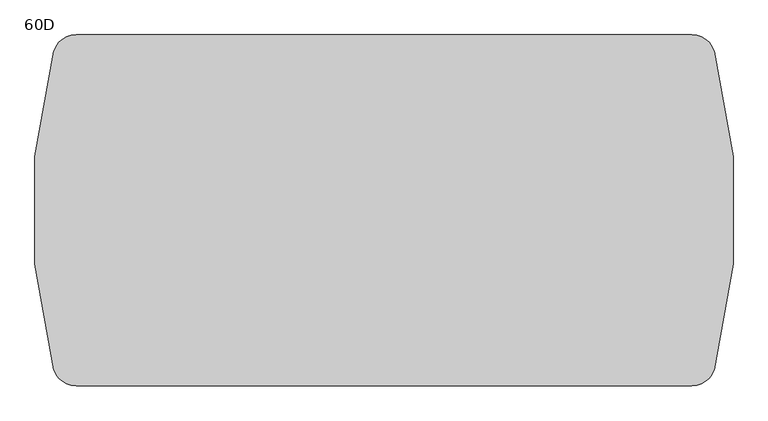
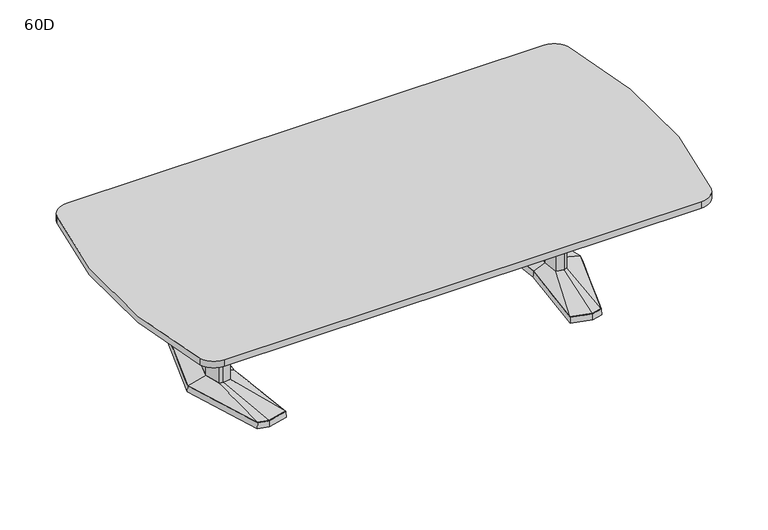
"""IFC4 building model written with IfcOpenShell, lengths in millimetres: furniture geometry, Coalesse_AM_Table_Conference_ETable2_SoftRadiused_10ft_AluminiumBase : 60D."""

import ifcopenshell
import ifcopenshell.guid

model = None  # the IFC model being written
_history = None  # IfcOwnerHistory: only IFC2X3 demands one
_inside = {}  # id of a spatial element -> (the spatial element, [elements in it])
_under = {}  # id of a project, library or spatial element -> (it, [spatial elements below it])
_declared = {}  # id of a project -> (the project, [libraries it declares])
_typed = {}  # id of a type object -> (the type object, [elements of that type])
_made_of = {}  # id of a material, layer set ... -> (it, [elements and type objects made of it])


def new_model(schema):
    """Start an empty IFC model of exactly this schema.

    Asked for "IFC4X3", IfcOpenShell would pick the latest addendum, in which some entities
    have other attributes; the version numbers below select the first issue.
    IFC2X3 requires an IfcOwnerHistory on every rooted entity: one is made here for all.
    """
    global model, _history
    if schema == "IFC4X3":
        model = ifcopenshell.file(schema_version=(4, 3, 0, 0))
    else:
        model = ifcopenshell.file(schema=schema)
    _inside.clear()
    _under.clear()
    _declared.clear()
    _typed.clear()
    _made_of.clear()
    _history = None
    if model.schema == "IFC2X3":
        org = make("IfcOrganization", Name="unknown")
        user = make(
            "IfcPersonAndOrganization",
            ThePerson=make("IfcPerson", FamilyName="unknown"),
            TheOrganization=org,
        )
        app = make(
            "IfcApplication",
            ApplicationDeveloper=org,
            Version="unknown",
            ApplicationFullName="unknown",
            ApplicationIdentifier="unknown",
        )
        _history = make(
            "IfcOwnerHistory",
            OwningUser=user,
            OwningApplication=app,
            ChangeAction="ADDED",
            CreationDate=0,
        )
    return model


def make(cls, **values):
    """One entity of the class cls with the attributes given. An attribute that is None is left unset."""
    return model.create_entity(
        cls, **{name: value for name, value in values.items() if value is not None}
    )


def rooted(cls, **values):
    """An entity with a GlobalId (a new one), such as an element, a storey or a relation."""
    return make(cls, GlobalId=ifcopenshell.guid.new(), OwnerHistory=_history, **values)


def si_unit(unit_type, name, prefix=None):
    """IfcSIUnit, for example si_unit("LENGTHUNIT", "METRE", prefix="MILLI")."""
    return make("IfcSIUnit", UnitType=unit_type, Prefix=prefix, Name=name)


def assignment(units):
    """IfcUnitAssignment: the units of a project."""
    return None if units is None else make("IfcUnitAssignment", Units=units)


def point(xyz):
    """IfcCartesianPoint."""
    return None if xyz is None else make("IfcCartesianPoint", Coordinates=xyz)


def direction(xyz):
    """IfcDirection."""
    return None if xyz is None else make("IfcDirection", DirectionRatios=xyz)


def frame(location, z_axis=None, x_axis=None):
    """IfcAxis2Placement3D, a coordinate frame: its origin and axes. An axis left out is left unset."""
    return make(
        "IfcAxis2Placement3D",
        Location=point(location),
        Axis=direction(z_axis),
        RefDirection=direction(x_axis),
    )


def origin():
    """The frame at (0, 0, 0) with its axes left unset."""
    return frame((0.0, 0.0, 0.0))


def place(relative_to, where):
    """IfcLocalPlacement: puts the frame where relative to a parent placement (None: the world)."""
    return make(
        "IfcLocalPlacement", PlacementRelTo=relative_to, RelativePlacement=where
    )


def context(
    kind, dimensions, precision=None, world=None, true_north=None, identifier=None
):
    """IfcGeometricRepresentationContext, for example the 3D "Model" context."""
    return make(
        "IfcGeometricRepresentationContext",
        ContextIdentifier=identifier,
        ContextType=kind,
        CoordinateSpaceDimension=dimensions,
        Precision=precision,
        WorldCoordinateSystem=world,
        TrueNorth=true_north,
    )


def project(units=None, contexts=None):
    """IfcProject with its units and contexts."""
    return rooted(
        "IfcProject",
        Name="project",
        RepresentationContexts=contexts,
        UnitsInContext=assignment(units),
    )


def spatial(cls, under=None, at=None, **own):
    """A site, building, storey or space (cls), placed at a placement, below another one or the project."""
    s = rooted(cls, ObjectPlacement=at, **own)
    if under is not None:
        _under.setdefault(under.id(), (under, []))[1].append(s)
    return s


def polyline(points):
    """IfcPolyline through the points."""
    return make("IfcPolyline", Points=[point(p) for p in points])


def circle_curve(where, radius):
    """IfcCircle in the frame where."""
    return make("IfcCircle", Position=where, Radius=radius)


def outline(outer, holes=None, kind="AREA"):
    """IfcArbitraryClosedProfileDef: a profile drawn as a closed curve; with holes, ...WithVoids."""
    if holes is None:
        return make("IfcArbitraryClosedProfileDef", ProfileType=kind, OuterCurve=outer)
    return make(
        "IfcArbitraryProfileDefWithVoids",
        ProfileType=kind,
        OuterCurve=outer,
        InnerCurves=holes,
    )


def extrude(swept, where, along, depth):
    """IfcExtrudedAreaSolid: the profile swept, set in the frame where, extruded along a direction by depth."""
    return make(
        "IfcExtrudedAreaSolid",
        SweptArea=swept,
        Position=where,
        ExtrudedDirection=direction(along),
        Depth=depth,
    )


def faces_of(points, faces, orient=None, outer=None):
    """IfcFace entities. A face is a list of loops; a loop is a list of indices into points, from 0.

    orient and outer hold one flag for each loop. By default every Orientation is true, the
    first loop of a face is its IfcFaceOuterBound and the others are IfcFaceBound.
    """
    made = []
    for i, loops in enumerate(faces):
        bounds = []
        for j, loop in enumerate(loops):
            is_outer = j == 0 if outer is None else outer[i][j]
            bounds.append(
                make(
                    "IfcFaceOuterBound" if is_outer else "IfcFaceBound",
                    Bound=make("IfcPolyLoop", Polygon=[points[k] for k in loop]),
                    Orientation=True if orient is None else orient[i][j],
                )
            )
        made.append(make("IfcFace", Bounds=bounds))
    return made


def faceted_brep(points, faces, orient=None, outer=None, voids=None):
    """IfcFacetedBrep: a solid bounded by flat faces; with voids (closed shells), ...WithVoids."""
    shared = [point(p) for p in points]
    hull = make("IfcClosedShell", CfsFaces=faces_of(shared, faces, orient, outer))
    if voids is None:
        return make("IfcFacetedBrep", Outer=hull)
    return make(
        "IfcFacetedBrepWithVoids",
        Outer=hull,
        Voids=[
            make(cls, CfsFaces=faces_of(shared, fs, o, b)) for cls, fs, o, b in voids
        ],
    )


def shape(context_of_items, identifier, shape_type, items):
    """IfcShapeRepresentation: the items that make up one representation, for example the "Body"."""
    return make(
        "IfcShapeRepresentation",
        ContextOfItems=context_of_items,
        RepresentationIdentifier=identifier,
        RepresentationType=shape_type,
        Items=items,
    )


def source(mapping_origin, context_of_items, identifier, shape_type, items):
    """IfcRepresentationMap: a shape defined once, which mapped items show again and again."""
    return make(
        "IfcRepresentationMap",
        MappingOrigin=mapping_origin,
        MappedRepresentation=shape(context_of_items, identifier, shape_type, items),
    )


def transform(
    local_origin,
    x_axis=None,
    y_axis=None,
    z_axis=None,
    scale=None,
    scale2=None,
    scale3=None,
    uniform=True,
):
    """IfcCartesianTransformationOperator3D, or its non-uniform kind. x_axis, y_axis, z_axis: its Axis1, 2, 3."""
    if uniform:
        return make(
            "IfcCartesianTransformationOperator3D",
            Axis1=direction(x_axis),
            Axis2=direction(y_axis),
            LocalOrigin=point(local_origin),
            Scale=scale,
            Axis3=direction(z_axis),
        )
    return make(
        "IfcCartesianTransformationOperator3DnonUniform",
        Axis1=direction(x_axis),
        Axis2=direction(y_axis),
        LocalOrigin=point(local_origin),
        Scale=scale,
        Axis3=direction(z_axis),
        Scale2=scale2,
        Scale3=scale3,
    )


def mapped(mapping_source, mapping_target):
    """IfcMappedItem: shows the shape of a source again, moved by a transform."""
    return make(
        "IfcMappedItem", MappingSource=mapping_source, MappingTarget=mapping_target
    )


def made_of(thing, what):
    """Note that an element or type object is made of a material, layer set ...; save() writes the relation."""
    if what is not None:
        _made_of.setdefault(what.id(), (what, []))[1].append(thing)
    return thing


def element(
    cls,
    number,
    at=None,
    inside=None,
    cuts=None,
    type_object=None,
    material=None,
    context=None,
    identifier="Body",
    shape_type=None,
    held_by="IfcProductDefinitionShape",
    body=None,
    shapes=None,
    **own,
):
    """One element of the class cls, such as IfcWall. Its Tag is "e" and its number.

    at: its placement. inside: the storey or other place that contains it. cuts: it is an
    opening in that element (IfcRelVoidsElement). A single representation is given by context,
    identifier, shape_type and body (its items); several are given by shapes. held_by: the class
    of the entity that holds the representations. save() writes the other relations.
    """
    e = rooted(cls, Tag="e%d" % number, ObjectPlacement=at, **own)
    if body is not None:
        shapes = [shape(context, identifier, shape_type, body)]
    if shapes is not None:
        e.Representation = make(held_by, Representations=shapes)
    if inside is not None:
        _inside.setdefault(inside.id(), (inside, []))[1].append(e)
    if cuts is not None:
        rooted(
            "IfcRelVoidsElement", RelatingBuildingElement=cuts, RelatedOpeningElement=e
        )
    if type_object is not None:
        _typed.setdefault(type_object.id(), (type_object, []))[1].append(e)
    return made_of(e, material)


def aggregate(whole, parts):
    """IfcRelAggregates: a whole, such as a stair, and the parts it consists of."""
    return rooted("IfcRelAggregates", RelatingObject=whole, RelatedObjects=parts)


def save(model, path):
    """Write the relations noted so far, then the file.

    IfcRelAggregates (storeys below a building ...), IfcRelContainedInSpatialStructure (elements
    in a storey), IfcRelDefinesByType, IfcRelAssociatesMaterial and IfcRelDeclares: one each for
    every whole, place, type object, material and project.
    """
    for whole, parts in _under.values():
        aggregate(whole, parts)
    for where, things in _inside.values():
        rooted(
            "IfcRelContainedInSpatialStructure",
            RelatedElements=things,
            RelatingStructure=where,
        )
    for kind, things in _typed.values():
        rooted("IfcRelDefinesByType", RelatedObjects=things, RelatingType=kind)
    for what, things in _made_of.values():
        rooted("IfcRelAssociatesMaterial", RelatedObjects=things, RelatingMaterial=what)
    for by, libraries in _declared.values():
        rooted("IfcRelDeclares", RelatingContext=by, RelatedDefinitions=libraries)
    model.write(path)


def plane_surface(at):
    """IfcPlane: the flat surface through the origin of the frame at, square to its z axis."""
    return make("IfcPlane", Position=at)


def cylinder_surface(at, radius):
    """IfcCylindricalSurface: all points at the distance radius from the z axis of the frame at."""
    return make("IfcCylindricalSurface", Position=at, Radius=radius)


def spline_surface(u_degree, v_degree, points, u_multiplicities, v_multiplicities, u_knots, v_knots, weights=None):
    """IfcBSplineSurfaceWithKnots; with weights, IfcRationalBSplineSurfaceWithKnots. points: one row for each step in u."""
    own = dict(
        UDegree=u_degree,
        VDegree=v_degree,
        ControlPointsList=[[point(p) for p in row] for row in points],
        SurfaceForm="UNSPECIFIED",
        UClosed=False,
        VClosed=False,
        SelfIntersect=False,
        UMultiplicities=u_multiplicities,
        VMultiplicities=v_multiplicities,
        UKnots=u_knots,
        VKnots=v_knots,
        KnotSpec="UNSPECIFIED",
    )
    if weights is None:
        return make("IfcBSplineSurfaceWithKnots", **own)
    return make("IfcRationalBSplineSurfaceWithKnots", WeightsData=weights, **own)


def advanced_brep(points, edges, surfaces, faces):
    """IfcAdvancedBrep: a solid bounded by faces that lie on surfaces and meet in shared edges.

    An edge is (start, end): straight between two places in points (the first is 0);
    or (start, end, curve); or (start, end, curve, False) where it runs against its curve.
    A face is (place in surfaces, loops), or (place, loops, False) where it looks against
    its surface's normal. A loop lists edges by number (the first is 1), with a minus sign
    where the edge is run from its end to its start. The first loop is the outer one.
    """
    corners = [point(p) for p in points]
    vertices = [make("IfcVertexPoint", VertexGeometry=c) for c in corners]
    made = []
    for start, end, *more in edges:
        made.append(
            make(
                "IfcEdgeCurve",
                EdgeStart=vertices[start],
                EdgeEnd=vertices[end],
                EdgeGeometry=more[0] if more else make("IfcPolyline", Points=[corners[start], corners[end]]),
                SameSense=more[1] if len(more) > 1 else True,
            )
        )
    hull = []
    for where, loops, *sense in faces:
        bounds = []
        for j, loop in enumerate(loops):
            ring = [make("IfcOrientedEdge", EdgeElement=made[abs(k) - 1], Orientation=k > 0) for k in loop]
            bounds.append(
                make(
                    "IfcFaceOuterBound" if j == 0 else "IfcFaceBound",
                    Bound=make("IfcEdgeLoop", EdgeList=ring),
                    Orientation=True,
                )
            )
        hull.append(make("IfcAdvancedFace", Bounds=bounds, FaceSurface=surfaces[where], SameSense=sense[0] if sense else True))
    return make("IfcAdvancedBrep", Outer=make("IfcClosedShell", CfsFaces=hull))


def furniture_60d_a874cf7c(model_context):
    return source(origin(), model_context, "Body", "SolidModel", [
        faceted_brep([(905.8306835, 455.5848221, 38.1), (796.2531277, 426.2263816, 38.1), (837.4163717, 0.0, 38.1), (796.2531277, -426.2263816, 38.1), (905.8306835, -455.5848221, 38.1), (961.9570396, -440.5478297, 38.1), (1099.2684269, 0.0, 38.1), (961.9570396, 440.5478297, 38.1), (905.8306754, 457.2283104, 3.175), (963.2124472, 441.8549756, 3.175), (1100.93125, 0.0, 3.175), (963.2124472, -441.8549756, 3.175), (905.8306754, -457.2283104, 3.175), (794.54375, -427.4118891, 3.175), (835.8214856, 0.0, 3.175), (794.54375, 427.4118891, 3.175), (909.420115, 428.3273875, 3.175), (804.3718228, 402.1057253, 3.175), (812.490518, 377.985069, 3.175), (913.0095466, 401.0699529, 3.175), (963.5691725, 387.524361, 3.175), (962.7631061, 414.0360954, 3.175), (909.420115, -428.3273875, 3.175), (962.7631061, -414.0360954, 3.175), (963.5691725, -387.524361, 3.175), (913.0095466, -401.0699529, 3.175), (812.490518, -377.985069, 3.175), (804.3718228, -402.1057253, 3.175), (1036.0153621, 0.0, 3.175), (1003.7459611, 120.4193755, 3.175), (955.0987222, 133.471665, 3.175), (875.2180526, 119.4176561, 3.175), (864.0868466, 0.0, 3.175), (875.2180526, -119.4176561, 3.175), (955.0987222, -133.471665, 3.175), (1003.7459611, -120.4193755, 3.175), (909.420115, 428.3273875, 0.0), (962.7631061, 414.0360954, 0.0), (963.5691725, 387.524361, 0.0), (913.0095466, 401.0699529, 0.0), (812.490518, 377.985069, 0.0), (804.3718228, 402.1057253, 0.0), (909.420115, -428.3273875, 0.0), (804.3718228, -402.1057253, 0.0), (812.490518, -377.985069, 0.0), (913.0095466, -401.0699529, 0.0), (963.5691725, -387.524361, 0.0), (962.7631061, -414.0360954, 0.0), (1036.0153621, 0.0, 0.0), (1003.7459611, -120.4193755, 0.0), (955.0987222, -133.471665, 0.0), (875.2180526, -119.4176561, 0.0), (864.0868466, 0.0, 0.0), (875.2180526, 119.4176561, 0.0), (955.0987222, 133.471665, 0.0), (1003.7459611, 120.4193755, 0.0)], [[[0, 1, 2, 3, 4, 5, 6, 7]], [[8, 9, 10, 11, 12, 13, 14, 15], [16, 17, 18, 19, 20, 21], [22, 23, 24, 25, 26, 27], [28, 29, 30, 31, 32, 33, 34, 35]], [[7, 9, 8, 0]], [[6, 10, 9, 7]], [[5, 11, 10, 6]], [[4, 12, 11, 5]], [[3, 13, 12, 4]], [[2, 14, 13, 3]], [[1, 15, 14, 2]], [[0, 8, 15, 1]], [[36, 37, 38, 39, 40, 41]], [[42, 43, 44, 45, 46, 47]], [[48, 49, 50, 51, 52, 53, 54, 55]], [[36, 16, 21, 37]], [[37, 21, 20, 38]], [[38, 20, 19, 39]], [[39, 19, 18, 40]], [[40, 18, 17, 41]], [[41, 17, 16, 36]], [[42, 22, 27, 43]], [[43, 27, 26, 44]], [[44, 26, 25, 45]], [[45, 25, 24, 46]], [[46, 24, 23, 47]], [[47, 23, 22, 42]], [[48, 28, 35, 49]], [[49, 35, 34, 50]], [[50, 34, 33, 51]], [[51, 33, 32, 52]], [[52, 32, 31, 53]], [[53, 31, 30, 54]], [[54, 30, 29, 55]], [[55, 29, 28, 48]]]),
        faceted_brep([(996.5710836, 0.0, 698.5), (972.6358546, 89.3188359, 698.5), (955.7824984, 93.8406728, 698.5), (953.3826511, 94.4845635, 698.5), (910.455146, 86.9320037, 698.5), (902.3520056, 0.0, 698.5), (910.455146, -86.9320037, 698.5), (953.3826511, -94.4845635, 698.5), (955.7824984, -93.8406728, 698.5), (972.6358546, -89.3188359, 698.5), (996.5710836, 0.0, 63.5), (972.6358546, -89.3188359, 63.5), (955.7824984, -93.8406728, 63.5), (953.3826511, -94.4845635, 63.5), (910.455146, -86.9320037, 63.5), (902.3520056, 0.0, 63.5), (910.455146, 86.9320037, 63.5), (953.3826511, 94.4845635, 63.5), (955.7824984, 93.8406728, 63.5), (972.6358546, 89.3188359, 63.5)], [[[0, 1, 2, 3, 4, 5, 6, 7, 8, 9]], [[10, 11, 12, 13, 14, 15, 16, 17, 18, 19]], [[9, 11, 10, 0]], [[8, 12, 11, 9]], [[7, 13, 12, 8]], [[6, 14, 13, 7]], [[5, 15, 14, 6]], [[4, 16, 15, 5]], [[3, 17, 16, 4]], [[2, 18, 17, 3]], [[1, 19, 18, 2]], [[0, 10, 19, 1]]]),
        advanced_brep(
        [(953.3826511, 94.4845635, 63.5), (910.455146, 86.9320037, 63.5), (902.3520056, 0.0, 63.5), (910.455146, -86.9320037, 63.5), (953.3826511, -94.4845635, 63.5), (972.6358546, -89.3188359, 63.5), (996.5710836, 0.0, 63.5), (972.6358546, 89.3188359, 63.5), (905.8306835, 455.5848221, 38.1), (961.9570396, 440.5478297, 38.1), (1099.2684269, 0.0, 38.1), (961.9570396, -440.5478297, 38.1), (905.8306835, -455.5848221, 38.1), (796.2531277, -426.2263816, 38.1), (837.4163717, 0.0, 38.1), (796.2531277, 426.2263816, 38.1)],
        [
            (0, 1),
            (1, 2),
            (2, 3),
            (3, 4),
            (4, 5),
            (5, 6),
            (6, 7),
            (7, 0),
            (8, 9),
            (9, 10),
            (10, 11),
            (11, 12),
            (12, 13),
            (13, 14),
            (14, 15),
            (15, 8),
            (8, 0),
            (7, 9),
            (6, 10),
            (5, 11),
            (4, 12),
            (3, 13),
            (2, 14),
            (1, 15),
        ],
        [
            plane_surface(frame((946.4837991, 0.0, 63.5), z_axis=(0.0, 0.0, 1.0), x_axis=(-0.25884244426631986, -0.9659195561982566, 0.0))),
            plane_surface(frame((908.0958125, 0.0, 38.1), z_axis=(0.0, 0.0, -1.0), x_axis=(-0.25884244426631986, -0.9659195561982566, 0.0))),
            spline_surface(1, 1, [[(905.8306835, 455.5848221, 38.1), (961.9570396, 440.5478297, 38.1)], [(953.3826511, 94.4845635, 63.5), (972.6358546, 89.3188359, 63.5)]], [2, 2], [2, 2], [0.0, 1.0], [0.0, 1.0]),
            spline_surface(1, 1, [[(961.9570396, 440.5478297, 38.1), (1099.2684269, 0.0, 38.1)], [(972.6358546, 89.3188359, 63.5), (996.5710836, 0.0, 63.5)]], [2, 2], [2, 2], [0.0, 1.0], [0.0, 1.0]),
            spline_surface(1, 1, [[(1099.2684269, 0.0, 38.1), (961.9570396, -440.5478297, 38.1)], [(996.5710836, 0.0, 63.5), (972.6358546, -89.3188359, 63.5)]], [2, 2], [2, 2], [0.0, 1.0], [0.0, 1.0]),
            spline_surface(1, 1, [[(961.9570396, -440.5478297, 38.1), (905.8306835, -455.5848221, 38.1)], [(972.6358546, -89.3188359, 63.5), (953.3826511, -94.4845635, 63.5)]], [2, 2], [2, 2], [0.0, 1.0], [0.0, 1.0]),
            spline_surface(1, 1, [[(905.8306835, -455.5848221, 38.1), (796.2531277, -426.2263816, 38.1)], [(953.3826511, -94.4845635, 63.5), (910.455146, -86.9320037, 63.5)]], [2, 2], [2, 2], [0.0, 1.0], [0.0, 1.0]),
            spline_surface(1, 1, [[(796.2531277, -426.2263816, 38.1), (837.4163717, 0.0, 38.1)], [(910.455146, -86.9320037, 63.5), (902.3520056, 0.0, 63.5)]], [2, 2], [2, 2], [0.0, 1.0], [0.0, 1.0]),
            spline_surface(1, 1, [[(837.4163717, 0.0, 38.1), (796.2531277, 426.2263816, 38.1)], [(902.3520056, 0.0, 63.5), (910.455146, 86.9320037, 63.5)]], [2, 2], [2, 2], [0.0, 1.0], [0.0, 1.0]),
            spline_surface(1, 1, [[(796.2531277, 426.2263816, 38.1), (905.8306835, 455.5848221, 38.1)], [(910.455146, 86.9320037, 63.5), (953.3826511, 94.4845635, 63.5)]], [2, 2], [2, 2], [0.0, 1.0], [0.0, 1.0]),
        ],
        [
            (0, [[1, 2, 3, 4, 5, 6, 7, 8]]),
            (1, [[9, 10, 11, 12, 13, 14, 15, 16]]),
            (2, [[17, -8, 18, -9]]),
            (3, [[-18, -7, 19, -10]]),
            (4, [[-19, -6, 20, -11]]),
            (5, [[-20, -5, 21, -12]]),
            (6, [[-21, -4, 22, -13]]),
            (7, [[-22, -3, 23, -14]]),
            (8, [[-23, -2, 24, -15]]),
            (9, [[-24, -1, -17, -16]]),
        ],
    ),
        faceted_brep([(-905.8306835, 455.5848221, 38.1), (-961.9570396, 440.5478297, 38.1), (-1099.2684269, 0.0, 38.1), (-961.9570396, -440.5478297, 38.1), (-905.8306835, -455.5848221, 38.1), (-796.2531277, -426.2263816, 38.1), (-837.4163717, 0.0, 38.1), (-796.2531277, 426.2263816, 38.1), (-905.8306754, 457.2283104, 3.175), (-794.54375, 427.4118891, 3.175), (-835.8214856, 0.0, 3.175), (-794.54375, -427.4118891, 3.175), (-905.8306754, -457.2283104, 3.175), (-963.2124472, -441.8549756, 3.175), (-1100.93125, 0.0, 3.175), (-963.2124472, 441.8549756, 3.175), (-909.420115, 428.3273875, 3.175), (-962.7631061, 414.0360954, 3.175), (-963.5691725, 387.524361, 3.175), (-913.0095466, 401.0699529, 3.175), (-812.490518, 377.985069, 3.175), (-804.3718228, 402.1057253, 3.175), (-909.420115, -428.3273875, 3.175), (-804.3718228, -402.1057253, 3.175), (-812.490518, -377.985069, 3.175), (-913.0095466, -401.0699529, 3.175), (-963.5691725, -387.524361, 3.175), (-962.7631061, -414.0360954, 3.175), (-1036.0153621, 0.0, 3.175), (-1003.7459611, -120.4193755, 3.175), (-955.0987222, -133.471665, 3.175), (-875.2180526, -119.4176561, 3.175), (-864.0868466, 0.0, 3.175), (-875.2180526, 119.4176561, 3.175), (-955.0987222, 133.471665, 3.175), (-1003.7459611, 120.4193755, 3.175), (-909.420115, 428.3273875, 0.0), (-804.3718228, 402.1057253, 0.0), (-812.490518, 377.985069, 0.0), (-913.0095466, 401.0699529, 0.0), (-963.5691725, 387.524361, 0.0), (-962.7631061, 414.0360954, 0.0), (-909.420115, -428.3273875, 0.0), (-962.7631061, -414.0360954, 0.0), (-963.5691725, -387.524361, 0.0), (-913.0095466, -401.0699529, 0.0), (-812.490518, -377.985069, 0.0), (-804.3718228, -402.1057253, 0.0), (-1036.0153621, 0.0, 0.0), (-1003.7459611, 120.4193755, 0.0), (-955.0987222, 133.471665, 0.0), (-875.2180526, 119.4176561, 0.0), (-864.0868466, 0.0, 0.0), (-875.2180526, -119.4176561, 0.0), (-955.0987222, -133.471665, 0.0), (-1003.7459611, -120.4193755, 0.0)], [[[0, 1, 2, 3, 4, 5, 6, 7]], [[8, 9, 10, 11, 12, 13, 14, 15], [16, 17, 18, 19, 20, 21], [22, 23, 24, 25, 26, 27], [28, 29, 30, 31, 32, 33, 34, 35]], [[1, 0, 8, 15]], [[2, 1, 15, 14]], [[3, 2, 14, 13]], [[4, 3, 13, 12]], [[5, 4, 12, 11]], [[6, 5, 11, 10]], [[7, 6, 10, 9]], [[0, 7, 9, 8]], [[36, 37, 38, 39, 40, 41]], [[42, 43, 44, 45, 46, 47]], [[48, 49, 50, 51, 52, 53, 54, 55]], [[36, 41, 17, 16]], [[41, 40, 18, 17]], [[40, 39, 19, 18]], [[39, 38, 20, 19]], [[38, 37, 21, 20]], [[37, 36, 16, 21]], [[42, 47, 23, 22]], [[47, 46, 24, 23]], [[46, 45, 25, 24]], [[45, 44, 26, 25]], [[44, 43, 27, 26]], [[43, 42, 22, 27]], [[48, 55, 29, 28]], [[55, 54, 30, 29]], [[54, 53, 31, 30]], [[53, 52, 32, 31]], [[52, 51, 33, 32]], [[51, 50, 34, 33]], [[50, 49, 35, 34]], [[49, 48, 28, 35]]]),
        faceted_brep([(-996.5710836, 0.0, 698.5), (-972.6358546, -89.3188359, 698.5), (-955.7824984, -93.8406728, 698.5), (-953.3826511, -94.4845635, 698.5), (-910.455146, -86.9320037, 698.5), (-902.3520056, 0.0, 698.5), (-910.455146, 86.9320037, 698.5), (-953.3826511, 94.4845635, 698.5), (-955.7824984, 93.8406728, 698.5), (-972.6358546, 89.3188359, 698.5), (-996.5710836, 0.0, 63.5), (-972.6358546, 89.3188359, 63.5), (-955.7824984, 93.8406728, 63.5), (-953.3826511, 94.4845635, 63.5), (-910.455146, 86.9320037, 63.5), (-902.3520056, 0.0, 63.5), (-910.455146, -86.9320037, 63.5), (-953.3826511, -94.4845635, 63.5), (-955.7824984, -93.8406728, 63.5), (-972.6358546, -89.3188359, 63.5)], [[[0, 1, 2, 3, 4, 5, 6, 7, 8, 9]], [[10, 11, 12, 13, 14, 15, 16, 17, 18, 19]], [[1, 0, 10, 19]], [[2, 1, 19, 18]], [[3, 2, 18, 17]], [[4, 3, 17, 16]], [[5, 4, 16, 15]], [[6, 5, 15, 14]], [[7, 6, 14, 13]], [[8, 7, 13, 12]], [[9, 8, 12, 11]], [[0, 9, 11, 10]]]),
        advanced_brep(
        [(-953.3826511, 94.4845635, 63.5), (-972.6358546, 89.3188359, 63.5), (-996.5710836, 0.0, 63.5), (-972.6358546, -89.3188359, 63.5), (-953.3826511, -94.4845635, 63.5), (-910.455146, -86.9320037, 63.5), (-902.3520056, 0.0, 63.5), (-910.455146, 86.9320037, 63.5), (-905.8306835, 455.5848221, 38.1), (-796.2531277, 426.2263816, 38.1), (-837.4163717, 0.0, 38.1), (-796.2531277, -426.2263816, 38.1), (-905.8306835, -455.5848221, 38.1), (-961.9570396, -440.5478297, 38.1), (-1099.2684269, 0.0, 38.1), (-961.9570396, 440.5478297, 38.1)],
        [
            (0, 1),
            (1, 2),
            (2, 3),
            (3, 4),
            (4, 5),
            (5, 6),
            (6, 7),
            (7, 0),
            (8, 9),
            (9, 10),
            (10, 11),
            (11, 12),
            (12, 13),
            (13, 14),
            (14, 15),
            (15, 8),
            (15, 1),
            (0, 8),
            (14, 2),
            (13, 3),
            (12, 4),
            (11, 5),
            (10, 6),
            (9, 7),
        ],
        [
            plane_surface(frame((-946.4837991, 0.0, 63.5), z_axis=(0.0, 0.0, 1.0), x_axis=(0.25884244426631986, -0.9659195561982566, 0.0))),
            plane_surface(frame((-908.0958125, 0.0, 38.1), z_axis=(0.0, 0.0, -1.0), x_axis=(0.25884244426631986, -0.9659195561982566, 0.0))),
            spline_surface(1, 1, [[(-905.8306835, 455.5848221, 38.1), (-953.3826511, 94.4845635, 63.5)], [(-961.9570396, 440.5478297, 38.1), (-972.6358546, 89.3188359, 63.5)]], [2, 2], [2, 2], [0.0, 1.0], [0.0, 1.0]),
            spline_surface(1, 1, [[(-961.9570396, 440.5478297, 38.1), (-972.6358546, 89.3188359, 63.5)], [(-1099.2684269, 0.0, 38.1), (-996.5710836, 0.0, 63.5)]], [2, 2], [2, 2], [0.0, 1.0], [0.0, 1.0]),
            spline_surface(1, 1, [[(-1099.2684269, 0.0, 38.1), (-996.5710836, 0.0, 63.5)], [(-961.9570396, -440.5478297, 38.1), (-972.6358546, -89.3188359, 63.5)]], [2, 2], [2, 2], [0.0, 1.0], [0.0, 1.0]),
            spline_surface(1, 1, [[(-961.9570396, -440.5478297, 38.1), (-972.6358546, -89.3188359, 63.5)], [(-905.8306835, -455.5848221, 38.1), (-953.3826511, -94.4845635, 63.5)]], [2, 2], [2, 2], [0.0, 1.0], [0.0, 1.0]),
            spline_surface(1, 1, [[(-905.8306835, -455.5848221, 38.1), (-953.3826511, -94.4845635, 63.5)], [(-796.2531277, -426.2263816, 38.1), (-910.455146, -86.9320037, 63.5)]], [2, 2], [2, 2], [0.0, 1.0], [0.0, 1.0]),
            spline_surface(1, 1, [[(-796.2531277, -426.2263816, 38.1), (-910.455146, -86.9320037, 63.5)], [(-837.4163717, 0.0, 38.1), (-902.3520056, 0.0, 63.5)]], [2, 2], [2, 2], [0.0, 1.0], [0.0, 1.0]),
            spline_surface(1, 1, [[(-837.4163717, 0.0, 38.1), (-902.3520056, 0.0, 63.5)], [(-796.2531277, 426.2263816, 38.1), (-910.455146, 86.9320037, 63.5)]], [2, 2], [2, 2], [0.0, 1.0], [0.0, 1.0]),
            spline_surface(1, 1, [[(-796.2531277, 426.2263816, 38.1), (-910.455146, 86.9320037, 63.5)], [(-905.8306835, 455.5848221, 38.1), (-953.3826511, 94.4845635, 63.5)]], [2, 2], [2, 2], [0.0, 1.0], [0.0, 1.0]),
        ],
        [
            (0, [[1, 2, 3, 4, 5, 6, 7, 8]]),
            (1, [[9, 10, 11, 12, 13, 14, 15, 16]]),
            (2, [[-16, 17, -1, 18]]),
            (3, [[-15, 19, -2, -17]]),
            (4, [[-14, 20, -3, -19]]),
            (5, [[-13, 21, -4, -20]]),
            (6, [[-12, 22, -5, -21]]),
            (7, [[-11, 23, -6, -22]]),
            (8, [[-10, 24, -7, -23]]),
            (9, [[-9, -18, -8, -24]]),
        ],
    ),
        extrude(outline(polyline([(96.8375, 698.5), (103.1875, 698.5), (103.1875, 476.25), (-103.1875, 476.25), (-103.1875, 698.5), (-96.8375, 698.5), (-96.8375, 482.6), (96.8375, 482.6), (96.8375, 698.5)])), frame((-902.49375, 0.0, 0.0), z_axis=(1.0, 0.0, 0.0), x_axis=(0.0, 1.0, 0.0)), (0.0, 0.0, 1.0), 1804.9875),
        advanced_brep(
        [(-1335.2420702, 762.0, 736.6), (-1431.0315996, 694.2662966, 736.6), (-1431.7818993, 692.1441026, 736.6), (-1431.7818993, -692.1441026, 736.6), (-1431.0315996, -694.2662966, 736.6), (-1335.2417376, -762.0, 736.6), (1335.2420702, -762.0, 736.6), (1431.0315996, -694.2662966, 736.6), (1431.7818993, -692.1441026, 736.6), (1431.7818993, 692.1441026, 736.6), (1431.0315996, 694.2662966, 736.6), (1335.2420702, 762.0, 736.6), (-1335.2420702, 762.0, 698.5), (1335.2420702, 762.0, 698.5), (1431.0315996, 694.2662966, 698.5), (1431.7818993, 692.1441026, 698.5), (1431.7818993, -692.1441026, 698.5), (1431.0315996, -694.2662966, 698.5), (1335.2420702, -762.0, 698.5), (-1335.2417376, -762.0, 698.5), (-1431.0312448, -694.2663594, 698.5), (-1431.7818993, -692.1441026, 698.5), (-1431.7818993, 692.1441026, 698.5), (-1431.0315996, 694.2662966, 698.5)],
        [
            (0, 1, circle_curve(frame((-1335.2420702, 660.4, 736.6), z_axis=(0.0, 0.0, 1.0), x_axis=(1.0, 0.0, 0.0)), 101.6)),
            (1, 2),
            (2, 3, circle_curve(frame((1108.5294614, 0.0, 736.6), z_axis=(0.0, 0.0, 1.0), x_axis=(1.0, 0.0, 0.0)), 2632.9157351)),
            (3, 4),
            (4, 5, circle_curve(frame((-1335.2417376, -660.4, 736.6), z_axis=(0.0, 0.0, 1.0), x_axis=(1.0, 0.0, 0.0)), 101.6)),
            (5, 6),
            (6, 7, circle_curve(frame((1335.2420702, -660.4, 736.6), z_axis=(0.0, 0.0, 1.0), x_axis=(1.0, 0.0, 0.0)), 101.6)),
            (7, 8),
            (8, 9, circle_curve(frame((-1108.5294614, 0.0, 736.6), z_axis=(0.0, 0.0, 1.0), x_axis=(1.0, 0.0, 0.0)), 2632.9157351)),
            (9, 10),
            (10, 11, circle_curve(frame((1335.2420702, 660.4, 736.6), z_axis=(0.0, 0.0, 1.0), x_axis=(1.0, 0.0, 0.0)), 101.6)),
            (11, 0),
            (12, 13),
            (13, 14, circle_curve(frame((1335.2420702, 660.4, 698.5), z_axis=(0.0, 0.0, -1.0), x_axis=(1.0, 0.0, 0.0)), 101.6)),
            (14, 15),
            (15, 16, circle_curve(frame((-1108.5294614, 0.0, 698.5), z_axis=(0.0, 0.0, -1.0), x_axis=(1.0, 0.0, 0.0)), 2632.9157351)),
            (16, 17),
            (17, 18, circle_curve(frame((1335.2420702, -660.4, 698.5), z_axis=(0.0, 0.0, -1.0), x_axis=(1.0, 0.0, 0.0)), 101.6)),
            (18, 19),
            (19, 20, circle_curve(frame((-1335.2417376, -660.4, 698.5), z_axis=(0.0, 0.0, -1.0), x_axis=(1.0, 0.0, 0.0)), 101.6)),
            (20, 21),
            (21, 22, circle_curve(frame((1108.5294614, 0.0, 698.5), z_axis=(0.0, 0.0, -1.0), x_axis=(1.0, 0.0, 0.0)), 2632.9157351)),
            (22, 23),
            (23, 12, circle_curve(frame((-1335.2420702, 660.4, 698.5), z_axis=(0.0, 0.0, -1.0), x_axis=(1.0, 0.0, 0.0)), 101.6)),
            (0, 12),
            (23, 1),
            (22, 2),
            (21, 3),
            (20, 4),
            (19, 5),
            (18, 6),
            (17, 7),
            (16, 8),
            (15, 9),
            (14, 10),
            (13, 11),
        ],
        [
            plane_surface(frame((-1233.6420702, 660.4, 736.6), z_axis=(0.0, 0.0, 1.0), x_axis=(0.0, 1.0, 0.0))),
            plane_surface(frame((-1233.6420702, 660.4, 698.5), z_axis=(0.0, 0.0, -1.0), x_axis=(0.0, -1.0, 0.0))),
            cylinder_surface(frame((-1335.2420702, 660.4, 698.5), z_axis=(0.0, 0.0, 1.0), x_axis=(1.0, 0.0, 0.0)), 101.6),
            plane_surface(frame((-1431.0315996, 694.2662966, 736.6), z_axis=(-0.9428103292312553, 0.333329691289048, 0.0), x_axis=(0.0, 0.0, -1.0))),
            cylinder_surface(frame((1108.5294614, 0.0, 698.5), z_axis=(0.0, 0.0, 1.0), x_axis=(1.0, 0.0, 0.0)), 2632.9157351),
            plane_surface(frame((-1431.7818993, -692.1441026, 736.6), z_axis=(-0.9428103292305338, -0.333329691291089, 0.0), x_axis=(0.0, 0.0, -1.0))),
            cylinder_surface(frame((-1335.2417376, -660.4, 698.5), z_axis=(0.0, 0.0, 1.0), x_axis=(1.0, 0.0, 0.0)), 101.6),
            plane_surface(frame((-1335.2417376, -762.0, 736.6), z_axis=(0.0, -1.0, 0.0), x_axis=(0.0, 0.0, -1.0))),
            cylinder_surface(frame((1335.2420702, -660.4, 698.5), z_axis=(0.0, 0.0, 1.0), x_axis=(1.0, 0.0, 0.0)), 101.6),
            plane_surface(frame((1431.0315996, -694.2662966, 736.6), z_axis=(0.9428103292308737, -0.33332969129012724, 0.0), x_axis=(0.0, 0.0, -1.0))),
            cylinder_surface(frame((-1108.5294614, 0.0, 698.5), z_axis=(0.0, 0.0, 1.0), x_axis=(1.0, 0.0, 0.0)), 2632.9157351),
            plane_surface(frame((1431.7818993, 692.1441026, 736.6), z_axis=(0.9428103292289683, 0.33332969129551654, 0.0), x_axis=(0.0, 0.0, -1.0))),
            cylinder_surface(frame((1335.2420702, 660.4, 698.5), z_axis=(0.0, 0.0, 1.0), x_axis=(1.0, 0.0, 0.0)), 101.6),
            plane_surface(frame((1335.2420702, 762.0, 736.6), z_axis=(0.0, 1.0, 0.0), x_axis=(0.0, 0.0, -1.0))),
        ],
        [
            (0, [[1, 2, 3, 4, 5, 6, 7, 8, 9, 10, 11, 12]]),
            (1, [[13, 14, 15, 16, 17, 18, 19, 20, 21, 22, 23, 24]]),
            (2, [[-1, 25, -24, 26]]),
            (3, [[-2, -26, -23, 27]]),
            (4, [[-3, -27, -22, 28]]),
            (5, [[-4, -28, -21, 29]]),
            (6, [[-5, -29, -20, 30]]),
            (7, [[-6, -30, -19, 31]]),
            (8, [[-7, -31, -18, 32]]),
            (9, [[-8, -32, -17, 33]]),
            (10, [[-9, -33, -16, 34]]),
            (11, [[-10, -34, -15, 35]]),
            (12, [[-11, -35, -14, 36]]),
            (13, [[-12, -36, -13, -25]]),
        ],
    ),
    ])


if __name__ == "__main__":
    model = new_model("IFC4")
    model_context = context("Model", 3, world=origin())
    ifc_project = project(units=[si_unit("LENGTHUNIT", "METRE", prefix="MILLI")], contexts=[model_context])
    site = spatial("IfcSite", under=ifc_project)
    building = spatial("IfcBuilding", under=site)
    placement = place(None, origin())
    furniture_60d_shape = furniture_60d_a874cf7c(model_context)
    element("IfcFurniture", 1, ObjectType="Coalesse_AM_Table_Conference_ETable2_SoftRadiused_10ft_AluminiumBase : 60D", at=placement, inside=building, context=model_context, shape_type="MappedRepresentation", body=[
        mapped(furniture_60d_shape, transform((0.0, 0.0, 0.0), x_axis=(1.0, 0.0, 0.0), y_axis=(0.0, 1.0, 0.0), z_axis=(0.0, 0.0, 1.0))),
    ])
    save(model, "model.ifc")
